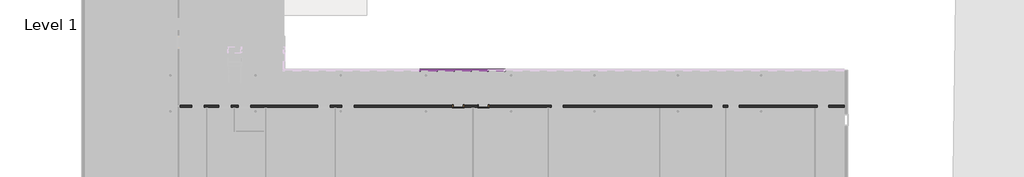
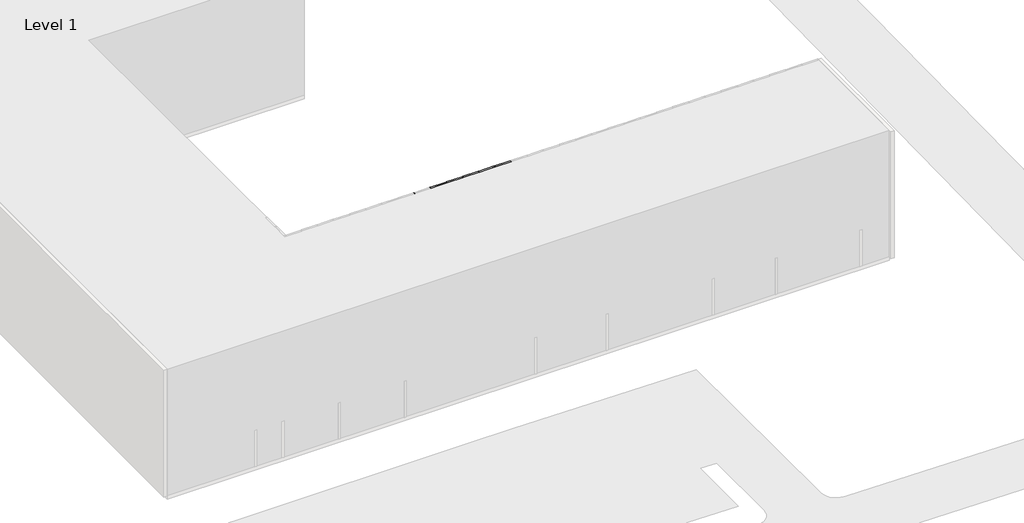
# One storey, part 5 of 27: 78 members, 32 plates, 2 doors, 1 wall.
"""IFC4 building model written with IfcOpenShell, lengths in millimetres."""

from ifc_helpers import new_model, si_unit, origin, place, context, project, spatial, faceted_brep, transform, mapped, element, save
from components import door_0915mm_x_2134mm_2aa27b83, door_0915mm_x_2134mm_3fa07aa3, rectangular_mullion_50mm_x_150mm_5f185edf, rectangular_mullion_50mm_x_150mm_e13fe9f0, rectangular_mullion_50mm_x_150mm_bbc1c4ea, rectangular_mullion_50mm_x_150mm_36202a7c, rectangular_mullion_50mm_x_150mm_84717ec5, system_panel_glazed_65478968, system_panel_glazed_4c130a31, system_panel_solid_368a6b70, system_panel_solid_ece33ae8

model = new_model("IFC4")

# Units and contexts
model_context = context("Model", 3, world=origin())
ifc_project = project(units=[si_unit("LENGTHUNIT", "METRE", prefix="MILLI")], contexts=[model_context])

# Site, building, storey
site = spatial("IfcSite", under=ifc_project)
building = spatial("IfcBuilding", under=site)
storey = spatial("IfcBuildingStorey", under=building, Name="Level 1", Elevation=0.0)

# Doors
placement = place(None, origin())
door_0915mm_x_2134mm_shape = door_0915mm_x_2134mm_2aa27b83(model_context)
element("IfcDoor", 1, ObjectType="m-doors-hm-f1-a : 0915mm x 2134mm", at=placement, inside=storey, context=model_context, shape_type="MappedRepresentation", body=[
    mapped(door_0915mm_x_2134mm_shape, transform((24961.1968037, -15479.7006057, 0.0), x_axis=(-1.0, 0.0, 0.0), y_axis=(0.0, -1.0, 0.0), z_axis=(0.0, 0.0, 1.0))),
])
door_0915mm_x_2134mm_2_shape = door_0915mm_x_2134mm_3fa07aa3(model_context)
element("IfcDoor", 2, ObjectType="m-doors-hm-f1-a : 0915mm x 2134mm", at=placement, inside=storey, context=model_context, shape_type="MappedRepresentation", body=[
    mapped(door_0915mm_x_2134mm_2_shape, transform((22761.1968037, -15479.7006057, 0.0), x_axis=(1.0, 0.0, 0.0), y_axis=(0.0, 1.0, 0.0), z_axis=(0.0, 0.0, 1.0))),
])

# Members
rectangular_mullion_50mm_x_150mm_shape = rectangular_mullion_50mm_x_150mm_5f185edf(model_context)
element("IfcMember", 3, ObjectType="Rectangular Mullion : 50mm x 150mm", at=placement, inside=storey, context=model_context, shape_type="MappedRepresentation", body=[
    mapped(rectangular_mullion_50mm_x_150mm_shape, transform((26874.6529347, -12132.3615692, 12400.0), x_axis=(0.0, 0.0, 1.0), y_axis=(0.0, 1.0, 0.0), z_axis=(-1.0, 0.0, 0.0))),
])
element("IfcMember", 4, ObjectType="Rectangular Mullion : 50mm x 150mm", at=placement, inside=storey, context=model_context, shape_type="MappedRepresentation", body=[
    mapped(rectangular_mullion_50mm_x_150mm_shape, transform((25382.1797146, -12132.3615692, 12400.0), x_axis=(0.0, 0.0, 1.0), y_axis=(0.0, 1.0, 0.0), z_axis=(-1.0, 0.0, 0.0))),
])
element("IfcMember", 5, ObjectType="Rectangular Mullion : 50mm x 150mm", at=placement, inside=storey, context=model_context, shape_type="MappedRepresentation", body=[
    mapped(rectangular_mullion_50mm_x_150mm_shape, transform((23889.7064944, -12132.3615692, 12400.0), x_axis=(0.0, 0.0, 1.0), y_axis=(0.0, 1.0, 0.0), z_axis=(-1.0, 0.0, 0.0))),
])
element("IfcMember", 6, ObjectType="Rectangular Mullion : 50mm x 150mm", at=placement, inside=storey, context=model_context, shape_type="MappedRepresentation", body=[
    mapped(rectangular_mullion_50mm_x_150mm_shape, transform((22397.2332743, -12132.3615692, 12400.0), x_axis=(0.0, 0.0, 1.0), y_axis=(0.0, 1.0, 0.0), z_axis=(-1.0, 0.0, 0.0))),
])
element("IfcMember", 7, ObjectType="Rectangular Mullion : 50mm x 150mm", at=placement, inside=storey, context=model_context, shape_type="MappedRepresentation", body=[
    mapped(rectangular_mullion_50mm_x_150mm_shape, transform((20904.7600541, -12132.3615692, 12400.0), x_axis=(0.0, 0.0, 1.0), y_axis=(0.0, 1.0, 0.0), z_axis=(-1.0, 0.0, 0.0))),
])
element("IfcMember", 8, ObjectType="Rectangular Mullion : 50mm x 150mm", at=placement, inside=storey, context=model_context, shape_type="MappedRepresentation", body=[
    mapped(rectangular_mullion_50mm_x_150mm_shape, transform((26824.6529347, -12132.3615692, 0.0), x_axis=(0.0, 0.0, -1.0), y_axis=(0.0, 1.0, 0.0), z_axis=(1.0, 0.0, 0.0))),
])
element("IfcMember", 9, ObjectType="Rectangular Mullion : 50mm x 150mm", at=placement, inside=storey, context=model_context, shape_type="MappedRepresentation", body=[
    mapped(rectangular_mullion_50mm_x_150mm_shape, transform((25332.1797146, -12132.3615692, 0.0), x_axis=(0.0, 0.0, -1.0), y_axis=(0.0, 1.0, 0.0), z_axis=(1.0, 0.0, 0.0))),
])
element("IfcMember", 10, ObjectType="Rectangular Mullion : 50mm x 150mm", at=placement, inside=storey, context=model_context, shape_type="MappedRepresentation", body=[
    mapped(rectangular_mullion_50mm_x_150mm_shape, transform((23839.7064944, -12132.3615692, 0.0), x_axis=(0.0, 0.0, -1.0), y_axis=(0.0, 1.0, 0.0), z_axis=(1.0, 0.0, 0.0))),
])
element("IfcMember", 11, ObjectType="Rectangular Mullion : 50mm x 150mm", at=placement, inside=storey, context=model_context, shape_type="MappedRepresentation", body=[
    mapped(rectangular_mullion_50mm_x_150mm_shape, transform((22347.2332743, -12132.3615692, 0.0), x_axis=(0.0, 0.0, -1.0), y_axis=(0.0, 1.0, 0.0), z_axis=(1.0, 0.0, 0.0))),
])
element("IfcMember", 12, ObjectType="Rectangular Mullion : 50mm x 150mm", at=placement, inside=storey, context=model_context, shape_type="MappedRepresentation", body=[
    mapped(rectangular_mullion_50mm_x_150mm_shape, transform((20854.7600541, -12132.3615692, 0.0), x_axis=(0.0, 0.0, -1.0), y_axis=(0.0, 1.0, 0.0), z_axis=(1.0, 0.0, 0.0))),
])
rectangular_mullion_50mm_x_150mm_2_shape = rectangular_mullion_50mm_x_150mm_e13fe9f0(model_context)
element("IfcMember", 13, ObjectType="Rectangular Mullion : 50mm x 150mm", at=placement, inside=storey, context=model_context, shape_type="MappedRepresentation", body=[
    mapped(rectangular_mullion_50mm_x_150mm_2_shape, transform((26874.6529347, -12132.3615692, 3800.0), x_axis=(0.0, 0.0, 1.0), y_axis=(0.0, 1.0, 0.0), z_axis=(-1.0, 0.0, 0.0))),
])
element("IfcMember", 14, ObjectType="Rectangular Mullion : 50mm x 150mm", at=placement, inside=storey, context=model_context, shape_type="MappedRepresentation", body=[
    mapped(rectangular_mullion_50mm_x_150mm_2_shape, transform((25382.1797146, -12132.3615692, 3800.0), x_axis=(0.0, 0.0, 1.0), y_axis=(0.0, 1.0, 0.0), z_axis=(-1.0, 0.0, 0.0))),
])
element("IfcMember", 15, ObjectType="Rectangular Mullion : 50mm x 150mm", at=placement, inside=storey, context=model_context, shape_type="MappedRepresentation", body=[
    mapped(rectangular_mullion_50mm_x_150mm_2_shape, transform((23889.7064944, -12132.3615692, 3800.0), x_axis=(0.0, 0.0, 1.0), y_axis=(0.0, 1.0, 0.0), z_axis=(-1.0, 0.0, 0.0))),
])
element("IfcMember", 16, ObjectType="Rectangular Mullion : 50mm x 150mm", at=placement, inside=storey, context=model_context, shape_type="MappedRepresentation", body=[
    mapped(rectangular_mullion_50mm_x_150mm_2_shape, transform((22397.2332743, -12132.3615692, 3800.0), x_axis=(0.0, 0.0, 1.0), y_axis=(0.0, 1.0, 0.0), z_axis=(-1.0, 0.0, 0.0))),
])
element("IfcMember", 17, ObjectType="Rectangular Mullion : 50mm x 150mm", at=placement, inside=storey, context=model_context, shape_type="MappedRepresentation", body=[
    mapped(rectangular_mullion_50mm_x_150mm_2_shape, transform((20904.7600541, -12132.3615692, 3800.0), x_axis=(0.0, 0.0, 1.0), y_axis=(0.0, 1.0, 0.0), z_axis=(-1.0, 0.0, 0.0))),
])
element("IfcMember", 18, ObjectType="Rectangular Mullion : 50mm x 150mm", at=placement, inside=storey, context=model_context, shape_type="MappedRepresentation", body=[
    mapped(rectangular_mullion_50mm_x_150mm_2_shape, transform((26874.6529347, -12132.3615692, 7600.0), x_axis=(0.0, 0.0, 1.0), y_axis=(0.0, 1.0, 0.0), z_axis=(-1.0, 0.0, 0.0))),
])
element("IfcMember", 19, ObjectType="Rectangular Mullion : 50mm x 150mm", at=placement, inside=storey, context=model_context, shape_type="MappedRepresentation", body=[
    mapped(rectangular_mullion_50mm_x_150mm_2_shape, transform((25382.1797146, -12132.3615692, 7600.0), x_axis=(0.0, 0.0, 1.0), y_axis=(0.0, 1.0, 0.0), z_axis=(-1.0, 0.0, 0.0))),
])
element("IfcMember", 20, ObjectType="Rectangular Mullion : 50mm x 150mm", at=placement, inside=storey, context=model_context, shape_type="MappedRepresentation", body=[
    mapped(rectangular_mullion_50mm_x_150mm_2_shape, transform((23889.7064944, -12132.3615692, 7600.0), x_axis=(0.0, 0.0, 1.0), y_axis=(0.0, 1.0, 0.0), z_axis=(-1.0, 0.0, 0.0))),
])
element("IfcMember", 21, ObjectType="Rectangular Mullion : 50mm x 150mm", at=placement, inside=storey, context=model_context, shape_type="MappedRepresentation", body=[
    mapped(rectangular_mullion_50mm_x_150mm_2_shape, transform((22397.2332743, -12132.3615692, 7600.0), x_axis=(0.0, 0.0, 1.0), y_axis=(0.0, 1.0, 0.0), z_axis=(-1.0, 0.0, 0.0))),
])
element("IfcMember", 22, ObjectType="Rectangular Mullion : 50mm x 150mm", at=placement, inside=storey, context=model_context, shape_type="MappedRepresentation", body=[
    mapped(rectangular_mullion_50mm_x_150mm_2_shape, transform((20904.7600541, -12132.3615692, 7600.0), x_axis=(0.0, 0.0, 1.0), y_axis=(0.0, 1.0, 0.0), z_axis=(-1.0, 0.0, 0.0))),
])
element("IfcMember", 23, ObjectType="Rectangular Mullion : 50mm x 150mm", at=placement, inside=storey, context=model_context, shape_type="MappedRepresentation", body=[
    mapped(rectangular_mullion_50mm_x_150mm_2_shape, transform((19412.2868339, -12132.3615692, 7600.0), x_axis=(0.0, 0.0, 1.0), y_axis=(0.0, 1.0, 0.0), z_axis=(-1.0, 0.0, 0.0))),
])
element("IfcMember", 24, ObjectType="Rectangular Mullion : 50mm x 150mm", at=placement, inside=storey, context=model_context, shape_type="MappedRepresentation", body=[
    mapped(rectangular_mullion_50mm_x_150mm_2_shape, transform((26874.6529347, -12132.3615692, 11400.0), x_axis=(0.0, 0.0, 1.0), y_axis=(0.0, 1.0, 0.0), z_axis=(-1.0, 0.0, 0.0))),
])
element("IfcMember", 25, ObjectType="Rectangular Mullion : 50mm x 150mm", at=placement, inside=storey, context=model_context, shape_type="MappedRepresentation", body=[
    mapped(rectangular_mullion_50mm_x_150mm_2_shape, transform((25382.1797146, -12132.3615692, 11400.0), x_axis=(0.0, 0.0, 1.0), y_axis=(0.0, 1.0, 0.0), z_axis=(-1.0, 0.0, 0.0))),
])
element("IfcMember", 26, ObjectType="Rectangular Mullion : 50mm x 150mm", at=placement, inside=storey, context=model_context, shape_type="MappedRepresentation", body=[
    mapped(rectangular_mullion_50mm_x_150mm_2_shape, transform((23889.7064944, -12132.3615692, 11400.0), x_axis=(0.0, 0.0, 1.0), y_axis=(0.0, 1.0, 0.0), z_axis=(-1.0, 0.0, 0.0))),
])
element("IfcMember", 27, ObjectType="Rectangular Mullion : 50mm x 150mm", at=placement, inside=storey, context=model_context, shape_type="MappedRepresentation", body=[
    mapped(rectangular_mullion_50mm_x_150mm_2_shape, transform((22397.2332743, -12132.3615692, 11400.0), x_axis=(0.0, 0.0, 1.0), y_axis=(0.0, 1.0, 0.0), z_axis=(-1.0, 0.0, 0.0))),
])
element("IfcMember", 28, ObjectType="Rectangular Mullion : 50mm x 150mm", at=placement, inside=storey, context=model_context, shape_type="MappedRepresentation", body=[
    mapped(rectangular_mullion_50mm_x_150mm_2_shape, transform((20904.7600541, -12132.3615692, 11400.0), x_axis=(0.0, 0.0, 1.0), y_axis=(0.0, 1.0, 0.0), z_axis=(-1.0, 0.0, 0.0))),
])
element("IfcMember", 29, ObjectType="Rectangular Mullion : 50mm x 150mm", at=placement, inside=storey, context=model_context, shape_type="MappedRepresentation", body=[
    mapped(rectangular_mullion_50mm_x_150mm_2_shape, transform((19412.2868339, -12132.3615692, 11400.0), x_axis=(0.0, 0.0, 1.0), y_axis=(0.0, 1.0, 0.0), z_axis=(-1.0, 0.0, 0.0))),
])
element("IfcMember", 30, ObjectType="Rectangular Mullion : 50mm x 150mm", at=placement, inside=storey, context=model_context, shape_type="MappedRepresentation", body=[
    mapped(rectangular_mullion_50mm_x_150mm_2_shape, transform((25382.1797146, -12132.3615692, 2440.0), x_axis=(0.0, 0.0, 1.0), y_axis=(0.0, 1.0, 0.0), z_axis=(-1.0, 0.0, 0.0))),
])
element("IfcMember", 31, ObjectType="Rectangular Mullion : 50mm x 150mm", at=placement, inside=storey, context=model_context, shape_type="MappedRepresentation", body=[
    mapped(rectangular_mullion_50mm_x_150mm_2_shape, transform((23889.7064944, -12132.3615692, 2440.0), x_axis=(0.0, 0.0, 1.0), y_axis=(0.0, 1.0, 0.0), z_axis=(-1.0, 0.0, 0.0))),
])
element("IfcMember", 32, ObjectType="Rectangular Mullion : 50mm x 150mm", at=placement, inside=storey, context=model_context, shape_type="MappedRepresentation", body=[
    mapped(rectangular_mullion_50mm_x_150mm_2_shape, transform((22397.2332743, -12132.3615692, 2440.0), x_axis=(0.0, 0.0, 1.0), y_axis=(0.0, 1.0, 0.0), z_axis=(-1.0, 0.0, 0.0))),
])
element("IfcMember", 33, ObjectType="Rectangular Mullion : 50mm x 150mm", at=placement, inside=storey, context=model_context, shape_type="MappedRepresentation", body=[
    mapped(rectangular_mullion_50mm_x_150mm_2_shape, transform((20904.7600541, -12132.3615692, 2440.0), x_axis=(0.0, 0.0, 1.0), y_axis=(0.0, 1.0, 0.0), z_axis=(-1.0, 0.0, 0.0))),
])
element("IfcMember", 34, ObjectType="Rectangular Mullion : 50mm x 150mm", at=placement, inside=storey, context=model_context, shape_type="MappedRepresentation", body=[
    mapped(rectangular_mullion_50mm_x_150mm_2_shape, transform((19412.2868339, -12132.3615692, 2440.0), x_axis=(0.0, 0.0, 1.0), y_axis=(0.0, 1.0, 0.0), z_axis=(-1.0, 0.0, 0.0))),
])
element("IfcMember", 35, ObjectType="Rectangular Mullion : 50mm x 150mm", at=placement, inside=storey, context=model_context, shape_type="MappedRepresentation", body=[
    mapped(rectangular_mullion_50mm_x_150mm_2_shape, transform((25382.1797146, -12132.3615692, 6240.0), x_axis=(0.0, 0.0, 1.0), y_axis=(0.0, 1.0, 0.0), z_axis=(-1.0, 0.0, 0.0))),
])
element("IfcMember", 36, ObjectType="Rectangular Mullion : 50mm x 150mm", at=placement, inside=storey, context=model_context, shape_type="MappedRepresentation", body=[
    mapped(rectangular_mullion_50mm_x_150mm_2_shape, transform((23889.7064944, -12132.3615692, 6240.0), x_axis=(0.0, 0.0, 1.0), y_axis=(0.0, 1.0, 0.0), z_axis=(-1.0, 0.0, 0.0))),
])
element("IfcMember", 37, ObjectType="Rectangular Mullion : 50mm x 150mm", at=placement, inside=storey, context=model_context, shape_type="MappedRepresentation", body=[
    mapped(rectangular_mullion_50mm_x_150mm_2_shape, transform((22397.2332743, -12132.3615692, 6240.0), x_axis=(0.0, 0.0, 1.0), y_axis=(0.0, 1.0, 0.0), z_axis=(-1.0, 0.0, 0.0))),
])
element("IfcMember", 38, ObjectType="Rectangular Mullion : 50mm x 150mm", at=placement, inside=storey, context=model_context, shape_type="MappedRepresentation", body=[
    mapped(rectangular_mullion_50mm_x_150mm_2_shape, transform((20904.7600541, -12132.3615692, 6240.0), x_axis=(0.0, 0.0, 1.0), y_axis=(0.0, 1.0, 0.0), z_axis=(-1.0, 0.0, 0.0))),
])
element("IfcMember", 39, ObjectType="Rectangular Mullion : 50mm x 150mm", at=placement, inside=storey, context=model_context, shape_type="MappedRepresentation", body=[
    mapped(rectangular_mullion_50mm_x_150mm_2_shape, transform((19412.2868339, -12132.3615692, 6240.0), x_axis=(0.0, 0.0, 1.0), y_axis=(0.0, 1.0, 0.0), z_axis=(-1.0, 0.0, 0.0))),
])
element("IfcMember", 40, ObjectType="Rectangular Mullion : 50mm x 150mm", at=placement, inside=storey, context=model_context, shape_type="MappedRepresentation", body=[
    mapped(rectangular_mullion_50mm_x_150mm_2_shape, transform((25382.1797146, -12132.3615692, 10040.0), x_axis=(0.0, 0.0, 1.0), y_axis=(0.0, 1.0, 0.0), z_axis=(-1.0, 0.0, 0.0))),
])
element("IfcMember", 41, ObjectType="Rectangular Mullion : 50mm x 150mm", at=placement, inside=storey, context=model_context, shape_type="MappedRepresentation", body=[
    mapped(rectangular_mullion_50mm_x_150mm_2_shape, transform((23889.7064944, -12132.3615692, 10040.0), x_axis=(0.0, 0.0, 1.0), y_axis=(0.0, 1.0, 0.0), z_axis=(-1.0, 0.0, 0.0))),
])
element("IfcMember", 42, ObjectType="Rectangular Mullion : 50mm x 150mm", at=placement, inside=storey, context=model_context, shape_type="MappedRepresentation", body=[
    mapped(rectangular_mullion_50mm_x_150mm_2_shape, transform((22397.2332743, -12132.3615692, 10040.0), x_axis=(0.0, 0.0, 1.0), y_axis=(0.0, 1.0, 0.0), z_axis=(-1.0, 0.0, 0.0))),
])
element("IfcMember", 43, ObjectType="Rectangular Mullion : 50mm x 150mm", at=placement, inside=storey, context=model_context, shape_type="MappedRepresentation", body=[
    mapped(rectangular_mullion_50mm_x_150mm_2_shape, transform((20904.7600541, -12132.3615692, 10040.0), x_axis=(0.0, 0.0, 1.0), y_axis=(0.0, 1.0, 0.0), z_axis=(-1.0, 0.0, 0.0))),
])
element("IfcMember", 44, ObjectType="Rectangular Mullion : 50mm x 150mm", at=placement, inside=storey, context=model_context, shape_type="MappedRepresentation", body=[
    mapped(rectangular_mullion_50mm_x_150mm_2_shape, transform((19412.2868339, -12132.3615692, 10040.0), x_axis=(0.0, 0.0, 1.0), y_axis=(0.0, 1.0, 0.0), z_axis=(-1.0, 0.0, 0.0))),
])
rectangular_mullion_50mm_x_150mm_3_shape = rectangular_mullion_50mm_x_150mm_bbc1c4ea(model_context)
element("IfcMember", 45, ObjectType="Rectangular Mullion : 50mm x 150mm", at=placement, inside=storey, context=model_context, shape_type="MappedRepresentation", body=[
    mapped(rectangular_mullion_50mm_x_150mm_3_shape, transform((25357.1797146, -12132.3615692, 11400.0), x_axis=(-1.0, 0.0, 0.0), y_axis=(0.0, 1.0, 0.0), z_axis=(0.0, 0.0, -1.0))),
])
element("IfcMember", 46, ObjectType="Rectangular Mullion : 50mm x 150mm", at=placement, inside=storey, context=model_context, shape_type="MappedRepresentation", body=[
    mapped(rectangular_mullion_50mm_x_150mm_3_shape, transform((23864.7064944, -12132.3615692, 11400.0), x_axis=(-1.0, 0.0, 0.0), y_axis=(0.0, 1.0, 0.0), z_axis=(0.0, 0.0, -1.0))),
])
element("IfcMember", 47, ObjectType="Rectangular Mullion : 50mm x 150mm", at=placement, inside=storey, context=model_context, shape_type="MappedRepresentation", body=[
    mapped(rectangular_mullion_50mm_x_150mm_3_shape, transform((22372.2332743, -12132.3615692, 11400.0), x_axis=(-1.0, 0.0, 0.0), y_axis=(0.0, 1.0, 0.0), z_axis=(0.0, 0.0, -1.0))),
])
element("IfcMember", 48, ObjectType="Rectangular Mullion : 50mm x 150mm", at=placement, inside=storey, context=model_context, shape_type="MappedRepresentation", body=[
    mapped(rectangular_mullion_50mm_x_150mm_3_shape, transform((20879.7600541, -12132.3615692, 11400.0), x_axis=(-1.0, 0.0, 0.0), y_axis=(0.0, 1.0, 0.0), z_axis=(0.0, 0.0, -1.0))),
])
element("IfcMember", 49, ObjectType="Rectangular Mullion : 50mm x 150mm", at=placement, inside=storey, context=model_context, shape_type="MappedRepresentation", body=[
    mapped(rectangular_mullion_50mm_x_150mm_3_shape, transform((19387.2868339, -12132.3615692, 11400.0), x_axis=(-1.0, 0.0, 0.0), y_axis=(0.0, 1.0, 0.0), z_axis=(0.0, 0.0, -1.0))),
])
rectangular_mullion_50mm_x_150mm_4_shape = rectangular_mullion_50mm_x_150mm_36202a7c(model_context)
element("IfcMember", 50, ObjectType="Rectangular Mullion : 50mm x 150mm", at=placement, inside=storey, context=model_context, shape_type="MappedRepresentation", body=[
    mapped(rectangular_mullion_50mm_x_150mm_4_shape, transform((26849.6529347, -12132.3615692, 0.0), x_axis=(-1.0, 0.0, 0.0), y_axis=(0.0, 1.0, 0.0), z_axis=(0.0, 0.0, -1.0))),
])
element("IfcMember", 51, ObjectType="Rectangular Mullion : 50mm x 150mm", at=placement, inside=storey, context=model_context, shape_type="MappedRepresentation", body=[
    mapped(rectangular_mullion_50mm_x_150mm_4_shape, transform((25357.1797146, -12132.3615692, 0.0), x_axis=(-1.0, 0.0, 0.0), y_axis=(0.0, 1.0, 0.0), z_axis=(0.0, 0.0, -1.0))),
])
element("IfcMember", 52, ObjectType="Rectangular Mullion : 50mm x 150mm", at=placement, inside=storey, context=model_context, shape_type="MappedRepresentation", body=[
    mapped(rectangular_mullion_50mm_x_150mm_4_shape, transform((23864.7064944, -12132.3615692, 0.0), x_axis=(-1.0, 0.0, 0.0), y_axis=(0.0, 1.0, 0.0), z_axis=(0.0, 0.0, -1.0))),
])
element("IfcMember", 53, ObjectType="Rectangular Mullion : 50mm x 150mm", at=placement, inside=storey, context=model_context, shape_type="MappedRepresentation", body=[
    mapped(rectangular_mullion_50mm_x_150mm_4_shape, transform((22372.2332743, -12132.3615692, 0.0), x_axis=(-1.0, 0.0, 0.0), y_axis=(0.0, 1.0, 0.0), z_axis=(0.0, 0.0, -1.0))),
])
element("IfcMember", 54, ObjectType="Rectangular Mullion : 50mm x 150mm", at=placement, inside=storey, context=model_context, shape_type="MappedRepresentation", body=[
    mapped(rectangular_mullion_50mm_x_150mm_4_shape, transform((20879.7600541, -12132.3615692, 0.0), x_axis=(-1.0, 0.0, 0.0), y_axis=(0.0, 1.0, 0.0), z_axis=(0.0, 0.0, -1.0))),
])
element("IfcMember", 55, ObjectType="Rectangular Mullion : 50mm x 150mm", at=placement, inside=storey, context=model_context, shape_type="MappedRepresentation", body=[
    mapped(rectangular_mullion_50mm_x_150mm_4_shape, transform((19387.2868339, -12132.3615692, 0.0), x_axis=(-1.0, 0.0, 0.0), y_axis=(0.0, 1.0, 0.0), z_axis=(0.0, 0.0, -1.0))),
])
rectangular_mullion_50mm_x_150mm_5_shape = rectangular_mullion_50mm_x_150mm_84717ec5(model_context)
element("IfcMember", 56, ObjectType="Rectangular Mullion : 50mm x 150mm", at=placement, inside=storey, context=model_context, shape_type="MappedRepresentation", body=[
    mapped(rectangular_mullion_50mm_x_150mm_5_shape, transform((25357.1797146, -12132.3615692, 2440.0), x_axis=(-1.0, 0.0, 0.0), y_axis=(0.0, 1.0, 0.0), z_axis=(0.0, 0.0, -1.0))),
])
element("IfcMember", 57, ObjectType="Rectangular Mullion : 50mm x 150mm", at=placement, inside=storey, context=model_context, shape_type="MappedRepresentation", body=[
    mapped(rectangular_mullion_50mm_x_150mm_5_shape, transform((23864.7064944, -12132.3615692, 2440.0), x_axis=(-1.0, 0.0, 0.0), y_axis=(0.0, 1.0, 0.0), z_axis=(0.0, 0.0, -1.0))),
])
element("IfcMember", 58, ObjectType="Rectangular Mullion : 50mm x 150mm", at=placement, inside=storey, context=model_context, shape_type="MappedRepresentation", body=[
    mapped(rectangular_mullion_50mm_x_150mm_5_shape, transform((22372.2332743, -12132.3615692, 2440.0), x_axis=(-1.0, 0.0, 0.0), y_axis=(0.0, 1.0, 0.0), z_axis=(0.0, 0.0, -1.0))),
])
element("IfcMember", 59, ObjectType="Rectangular Mullion : 50mm x 150mm", at=placement, inside=storey, context=model_context, shape_type="MappedRepresentation", body=[
    mapped(rectangular_mullion_50mm_x_150mm_5_shape, transform((20879.7600541, -12132.3615692, 2440.0), x_axis=(-1.0, 0.0, 0.0), y_axis=(0.0, 1.0, 0.0), z_axis=(0.0, 0.0, -1.0))),
])
element("IfcMember", 60, ObjectType="Rectangular Mullion : 50mm x 150mm", at=placement, inside=storey, context=model_context, shape_type="MappedRepresentation", body=[
    mapped(rectangular_mullion_50mm_x_150mm_5_shape, transform((19387.2868339, -12132.3615692, 2440.0), x_axis=(-1.0, 0.0, 0.0), y_axis=(0.0, 1.0, 0.0), z_axis=(0.0, 0.0, -1.0))),
])
element("IfcMember", 61, ObjectType="Rectangular Mullion : 50mm x 150mm", at=placement, inside=storey, context=model_context, shape_type="MappedRepresentation", body=[
    mapped(rectangular_mullion_50mm_x_150mm_5_shape, transform((25357.1797146, -12132.3615692, 6240.0), x_axis=(-1.0, 0.0, 0.0), y_axis=(0.0, 1.0, 0.0), z_axis=(0.0, 0.0, -1.0))),
])
element("IfcMember", 62, ObjectType="Rectangular Mullion : 50mm x 150mm", at=placement, inside=storey, context=model_context, shape_type="MappedRepresentation", body=[
    mapped(rectangular_mullion_50mm_x_150mm_5_shape, transform((23864.7064944, -12132.3615692, 6240.0), x_axis=(-1.0, 0.0, 0.0), y_axis=(0.0, 1.0, 0.0), z_axis=(0.0, 0.0, -1.0))),
])
element("IfcMember", 63, ObjectType="Rectangular Mullion : 50mm x 150mm", at=placement, inside=storey, context=model_context, shape_type="MappedRepresentation", body=[
    mapped(rectangular_mullion_50mm_x_150mm_5_shape, transform((22372.2332743, -12132.3615692, 6240.0), x_axis=(-1.0, 0.0, 0.0), y_axis=(0.0, 1.0, 0.0), z_axis=(0.0, 0.0, -1.0))),
])
element("IfcMember", 64, ObjectType="Rectangular Mullion : 50mm x 150mm", at=placement, inside=storey, context=model_context, shape_type="MappedRepresentation", body=[
    mapped(rectangular_mullion_50mm_x_150mm_5_shape, transform((20879.7600541, -12132.3615692, 6240.0), x_axis=(-1.0, 0.0, 0.0), y_axis=(0.0, 1.0, 0.0), z_axis=(0.0, 0.0, -1.0))),
])
element("IfcMember", 65, ObjectType="Rectangular Mullion : 50mm x 150mm", at=placement, inside=storey, context=model_context, shape_type="MappedRepresentation", body=[
    mapped(rectangular_mullion_50mm_x_150mm_5_shape, transform((19387.2868339, -12132.3615692, 6240.0), x_axis=(-1.0, 0.0, 0.0), y_axis=(0.0, 1.0, 0.0), z_axis=(0.0, 0.0, -1.0))),
])
element("IfcMember", 66, ObjectType="Rectangular Mullion : 50mm x 150mm", at=placement, inside=storey, context=model_context, shape_type="MappedRepresentation", body=[
    mapped(rectangular_mullion_50mm_x_150mm_5_shape, transform((25357.1797146, -12132.3615692, 10040.0), x_axis=(-1.0, 0.0, 0.0), y_axis=(0.0, 1.0, 0.0), z_axis=(0.0, 0.0, -1.0))),
])
element("IfcMember", 67, ObjectType="Rectangular Mullion : 50mm x 150mm", at=placement, inside=storey, context=model_context, shape_type="MappedRepresentation", body=[
    mapped(rectangular_mullion_50mm_x_150mm_5_shape, transform((23864.7064944, -12132.3615692, 10040.0), x_axis=(-1.0, 0.0, 0.0), y_axis=(0.0, 1.0, 0.0), z_axis=(0.0, 0.0, -1.0))),
])
element("IfcMember", 68, ObjectType="Rectangular Mullion : 50mm x 150mm", at=placement, inside=storey, context=model_context, shape_type="MappedRepresentation", body=[
    mapped(rectangular_mullion_50mm_x_150mm_5_shape, transform((22372.2332743, -12132.3615692, 10040.0), x_axis=(-1.0, 0.0, 0.0), y_axis=(0.0, 1.0, 0.0), z_axis=(0.0, 0.0, -1.0))),
])
element("IfcMember", 69, ObjectType="Rectangular Mullion : 50mm x 150mm", at=placement, inside=storey, context=model_context, shape_type="MappedRepresentation", body=[
    mapped(rectangular_mullion_50mm_x_150mm_5_shape, transform((20879.7600541, -12132.3615692, 10040.0), x_axis=(-1.0, 0.0, 0.0), y_axis=(0.0, 1.0, 0.0), z_axis=(0.0, 0.0, -1.0))),
])
element("IfcMember", 70, ObjectType="Rectangular Mullion : 50mm x 150mm", at=placement, inside=storey, context=model_context, shape_type="MappedRepresentation", body=[
    mapped(rectangular_mullion_50mm_x_150mm_5_shape, transform((19387.2868339, -12132.3615692, 10040.0), x_axis=(-1.0, 0.0, 0.0), y_axis=(0.0, 1.0, 0.0), z_axis=(0.0, 0.0, -1.0))),
])
element("IfcMember", 71, ObjectType="Rectangular Mullion : 50mm x 150mm", at=placement, inside=storey, context=model_context, shape_type="MappedRepresentation", body=[
    mapped(rectangular_mullion_50mm_x_150mm_4_shape, transform((25357.1797146, -12132.3615692, 3800.0), x_axis=(-1.0, 0.0, 0.0), y_axis=(0.0, 1.0, 0.0), z_axis=(0.0, 0.0, -1.0))),
])
element("IfcMember", 72, ObjectType="Rectangular Mullion : 50mm x 150mm", at=placement, inside=storey, context=model_context, shape_type="MappedRepresentation", body=[
    mapped(rectangular_mullion_50mm_x_150mm_4_shape, transform((23864.7064944, -12132.3615692, 3800.0), x_axis=(-1.0, 0.0, 0.0), y_axis=(0.0, 1.0, 0.0), z_axis=(0.0, 0.0, -1.0))),
])
element("IfcMember", 73, ObjectType="Rectangular Mullion : 50mm x 150mm", at=placement, inside=storey, context=model_context, shape_type="MappedRepresentation", body=[
    mapped(rectangular_mullion_50mm_x_150mm_4_shape, transform((22372.2332743, -12132.3615692, 3800.0), x_axis=(-1.0, 0.0, 0.0), y_axis=(0.0, 1.0, 0.0), z_axis=(0.0, 0.0, -1.0))),
])
element("IfcMember", 74, ObjectType="Rectangular Mullion : 50mm x 150mm", at=placement, inside=storey, context=model_context, shape_type="MappedRepresentation", body=[
    mapped(rectangular_mullion_50mm_x_150mm_4_shape, transform((20879.7600541, -12132.3615692, 3800.0), x_axis=(-1.0, 0.0, 0.0), y_axis=(0.0, 1.0, 0.0), z_axis=(0.0, 0.0, -1.0))),
])
element("IfcMember", 75, ObjectType="Rectangular Mullion : 50mm x 150mm", at=placement, inside=storey, context=model_context, shape_type="MappedRepresentation", body=[
    mapped(rectangular_mullion_50mm_x_150mm_4_shape, transform((19387.2868339, -12132.3615692, 3800.0), x_axis=(-1.0, 0.0, 0.0), y_axis=(0.0, 1.0, 0.0), z_axis=(0.0, 0.0, -1.0))),
])
element("IfcMember", 76, ObjectType="Rectangular Mullion : 50mm x 150mm", at=placement, inside=storey, context=model_context, shape_type="MappedRepresentation", body=[
    mapped(rectangular_mullion_50mm_x_150mm_4_shape, transform((25357.1797146, -12132.3615692, 7600.0), x_axis=(-1.0, 0.0, 0.0), y_axis=(0.0, 1.0, 0.0), z_axis=(0.0, 0.0, -1.0))),
])
element("IfcMember", 77, ObjectType="Rectangular Mullion : 50mm x 150mm", at=placement, inside=storey, context=model_context, shape_type="MappedRepresentation", body=[
    mapped(rectangular_mullion_50mm_x_150mm_4_shape, transform((23864.7064944, -12132.3615692, 7600.0), x_axis=(-1.0, 0.0, 0.0), y_axis=(0.0, 1.0, 0.0), z_axis=(0.0, 0.0, -1.0))),
])
element("IfcMember", 78, ObjectType="Rectangular Mullion : 50mm x 150mm", at=placement, inside=storey, context=model_context, shape_type="MappedRepresentation", body=[
    mapped(rectangular_mullion_50mm_x_150mm_4_shape, transform((22372.2332743, -12132.3615692, 7600.0), x_axis=(-1.0, 0.0, 0.0), y_axis=(0.0, 1.0, 0.0), z_axis=(0.0, 0.0, -1.0))),
])
element("IfcMember", 79, ObjectType="Rectangular Mullion : 50mm x 150mm", at=placement, inside=storey, context=model_context, shape_type="MappedRepresentation", body=[
    mapped(rectangular_mullion_50mm_x_150mm_4_shape, transform((20879.7600541, -12132.3615692, 7600.0), x_axis=(-1.0, 0.0, 0.0), y_axis=(0.0, 1.0, 0.0), z_axis=(0.0, 0.0, -1.0))),
])
element("IfcMember", 80, ObjectType="Rectangular Mullion : 50mm x 150mm", at=placement, inside=storey, context=model_context, shape_type="MappedRepresentation", body=[
    mapped(rectangular_mullion_50mm_x_150mm_4_shape, transform((19387.2868339, -12132.3615692, 7600.0), x_axis=(-1.0, 0.0, 0.0), y_axis=(0.0, 1.0, 0.0), z_axis=(0.0, 0.0, -1.0))),
])

# Plates
system_panel_glazed_shape = system_panel_glazed_65478968(model_context)
element("IfcPlate", 81, ObjectType="System Panel : Glazed", at=placement, inside=storey, context=model_context, shape_type="MappedRepresentation", body=[
    mapped(system_panel_glazed_shape, transform((26103.4163247, -12132.3615692, 50.0), x_axis=(-1.0, 0.0, 0.0), y_axis=(0.0, -1.0, 0.0), z_axis=(0.0, 0.0, 1.0))),
])
element("IfcPlate", 82, ObjectType="System Panel : Glazed", at=placement, inside=storey, context=model_context, shape_type="MappedRepresentation", body=[
    mapped(system_panel_glazed_shape, transform((24610.9431045, -12132.3615692, 50.0), x_axis=(-1.0, 0.0, 0.0), y_axis=(0.0, -1.0, 0.0), z_axis=(0.0, 0.0, 1.0))),
])
element("IfcPlate", 83, ObjectType="System Panel : Glazed", at=placement, inside=storey, context=model_context, shape_type="MappedRepresentation", body=[
    mapped(system_panel_glazed_shape, transform((23118.4698843, -12132.3615692, 50.0), x_axis=(-1.0, 0.0, 0.0), y_axis=(0.0, -1.0, 0.0), z_axis=(0.0, 0.0, 1.0))),
])
element("IfcPlate", 84, ObjectType="System Panel : Glazed", at=placement, inside=storey, context=model_context, shape_type="MappedRepresentation", body=[
    mapped(system_panel_glazed_shape, transform((21625.9966642, -12132.3615692, 50.0), x_axis=(-1.0, 0.0, 0.0), y_axis=(0.0, -1.0, 0.0), z_axis=(0.0, 0.0, 1.0))),
])
element("IfcPlate", 85, ObjectType="System Panel : Glazed", at=placement, inside=storey, context=model_context, shape_type="MappedRepresentation", body=[
    mapped(system_panel_glazed_shape, transform((20133.523444, -12132.3615692, 50.0), x_axis=(-1.0, 0.0, 0.0), y_axis=(0.0, -1.0, 0.0), z_axis=(0.0, 0.0, 1.0))),
])
system_panel_glazed_2_shape = system_panel_glazed_4c130a31(model_context)
element("IfcPlate", 86, ObjectType="System Panel : Glazed", at=placement, inside=storey, context=model_context, shape_type="MappedRepresentation", body=[
    mapped(system_panel_glazed_2_shape, transform((26103.4163247, -12132.3615692, 3825.0), x_axis=(-1.0, 0.0, 0.0), y_axis=(0.0, -1.0, 0.0), z_axis=(0.0, 0.0, 1.0))),
])
element("IfcPlate", 87, ObjectType="System Panel : Glazed", at=placement, inside=storey, context=model_context, shape_type="MappedRepresentation", body=[
    mapped(system_panel_glazed_2_shape, transform((24610.9431045, -12132.3615692, 3825.0), x_axis=(-1.0, 0.0, 0.0), y_axis=(0.0, -1.0, 0.0), z_axis=(0.0, 0.0, 1.0))),
])
element("IfcPlate", 88, ObjectType="System Panel : Glazed", at=placement, inside=storey, context=model_context, shape_type="MappedRepresentation", body=[
    mapped(system_panel_glazed_2_shape, transform((23118.4698843, -12132.3615692, 3825.0), x_axis=(-1.0, 0.0, 0.0), y_axis=(0.0, -1.0, 0.0), z_axis=(0.0, 0.0, 1.0))),
])
element("IfcPlate", 89, ObjectType="System Panel : Glazed", at=placement, inside=storey, context=model_context, shape_type="MappedRepresentation", body=[
    mapped(system_panel_glazed_2_shape, transform((21625.9966642, -12132.3615692, 3825.0), x_axis=(-1.0, 0.0, 0.0), y_axis=(0.0, -1.0, 0.0), z_axis=(0.0, 0.0, 1.0))),
])
element("IfcPlate", 90, ObjectType="System Panel : Glazed", at=placement, inside=storey, context=model_context, shape_type="MappedRepresentation", body=[
    mapped(system_panel_glazed_2_shape, transform((20133.523444, -12132.3615692, 3825.0), x_axis=(-1.0, 0.0, 0.0), y_axis=(0.0, -1.0, 0.0), z_axis=(0.0, 0.0, 1.0))),
])
element("IfcPlate", 91, ObjectType="System Panel : Glazed", at=placement, inside=storey, context=model_context, shape_type="MappedRepresentation", body=[
    mapped(system_panel_glazed_2_shape, transform((26103.4163247, -12132.3615692, 7625.0), x_axis=(-1.0, 0.0, 0.0), y_axis=(0.0, -1.0, 0.0), z_axis=(0.0, 0.0, 1.0))),
])
element("IfcPlate", 92, ObjectType="System Panel : Glazed", at=placement, inside=storey, context=model_context, shape_type="MappedRepresentation", body=[
    mapped(system_panel_glazed_2_shape, transform((24610.9431045, -12132.3615692, 7625.0), x_axis=(-1.0, 0.0, 0.0), y_axis=(0.0, -1.0, 0.0), z_axis=(0.0, 0.0, 1.0))),
])
element("IfcPlate", 93, ObjectType="System Panel : Glazed", at=placement, inside=storey, context=model_context, shape_type="MappedRepresentation", body=[
    mapped(system_panel_glazed_2_shape, transform((23118.4698843, -12132.3615692, 7625.0), x_axis=(-1.0, 0.0, 0.0), y_axis=(0.0, -1.0, 0.0), z_axis=(0.0, 0.0, 1.0))),
])
element("IfcPlate", 94, ObjectType="System Panel : Glazed", at=placement, inside=storey, context=model_context, shape_type="MappedRepresentation", body=[
    mapped(system_panel_glazed_2_shape, transform((21625.9966642, -12132.3615692, 7625.0), x_axis=(-1.0, 0.0, 0.0), y_axis=(0.0, -1.0, 0.0), z_axis=(0.0, 0.0, 1.0))),
])
element("IfcPlate", 95, ObjectType="System Panel : Glazed", at=placement, inside=storey, context=model_context, shape_type="MappedRepresentation", body=[
    mapped(system_panel_glazed_2_shape, transform((20133.523444, -12132.3615692, 7625.0), x_axis=(-1.0, 0.0, 0.0), y_axis=(0.0, -1.0, 0.0), z_axis=(0.0, 0.0, 1.0))),
])
system_panel_solid_shape = system_panel_solid_368a6b70(model_context)
element("IfcPlate", 96, ObjectType="System Panel : Solid", at=placement, inside=storey, context=model_context, shape_type="MappedRepresentation", body=[
    mapped(system_panel_solid_shape, transform((26103.4163247, -12132.3615692, 11425.0), x_axis=(-1.0, 0.0, 0.0), y_axis=(0.0, -1.0, 0.0), z_axis=(0.0, 0.0, 1.0))),
])
element("IfcPlate", 97, ObjectType="System Panel : Solid", at=placement, inside=storey, context=model_context, shape_type="MappedRepresentation", body=[
    mapped(system_panel_solid_shape, transform((24610.9431045, -12132.3615692, 11425.0), x_axis=(-1.0, 0.0, 0.0), y_axis=(0.0, -1.0, 0.0), z_axis=(0.0, 0.0, 1.0))),
])
element("IfcPlate", 98, ObjectType="System Panel : Solid", at=placement, inside=storey, context=model_context, shape_type="MappedRepresentation", body=[
    mapped(system_panel_solid_shape, transform((23118.4698843, -12132.3615692, 11425.0), x_axis=(-1.0, 0.0, 0.0), y_axis=(0.0, -1.0, 0.0), z_axis=(0.0, 0.0, 1.0))),
])
element("IfcPlate", 99, ObjectType="System Panel : Solid", at=placement, inside=storey, context=model_context, shape_type="MappedRepresentation", body=[
    mapped(system_panel_solid_shape, transform((21625.9966642, -12132.3615692, 11425.0), x_axis=(-1.0, 0.0, 0.0), y_axis=(0.0, -1.0, 0.0), z_axis=(0.0, 0.0, 1.0))),
])
element("IfcPlate", 100, ObjectType="System Panel : Solid", at=placement, inside=storey, context=model_context, shape_type="MappedRepresentation", body=[
    mapped(system_panel_solid_shape, transform((20133.523444, -12132.3615692, 11425.0), x_axis=(-1.0, 0.0, 0.0), y_axis=(0.0, -1.0, 0.0), z_axis=(0.0, 0.0, 1.0))),
])
system_panel_solid_2_shape = system_panel_solid_ece33ae8(model_context)
element("IfcPlate", 101, ObjectType="System Panel : Solid", at=placement, inside=storey, context=model_context, shape_type="MappedRepresentation", body=[
    mapped(system_panel_solid_2_shape, transform((24610.9431045, -12132.3615692, 2465.0), x_axis=(-1.0, 0.0, 0.0), y_axis=(0.0, -1.0, 0.0), z_axis=(0.0, 0.0, 1.0))),
])
element("IfcPlate", 102, ObjectType="System Panel : Solid", at=placement, inside=storey, context=model_context, shape_type="MappedRepresentation", body=[
    mapped(system_panel_solid_2_shape, transform((23118.4698843, -12132.3615692, 2465.0), x_axis=(-1.0, 0.0, 0.0), y_axis=(0.0, -1.0, 0.0), z_axis=(0.0, 0.0, 1.0))),
])
element("IfcPlate", 103, ObjectType="System Panel : Solid", at=placement, inside=storey, context=model_context, shape_type="MappedRepresentation", body=[
    mapped(system_panel_solid_2_shape, transform((21625.9966642, -12132.3615692, 2465.0), x_axis=(-1.0, 0.0, 0.0), y_axis=(0.0, -1.0, 0.0), z_axis=(0.0, 0.0, 1.0))),
])
element("IfcPlate", 104, ObjectType="System Panel : Solid", at=placement, inside=storey, context=model_context, shape_type="MappedRepresentation", body=[
    mapped(system_panel_solid_2_shape, transform((20133.523444, -12132.3615692, 2465.0), x_axis=(-1.0, 0.0, 0.0), y_axis=(0.0, -1.0, 0.0), z_axis=(0.0, 0.0, 1.0))),
])
element("IfcPlate", 105, ObjectType="System Panel : Solid", at=placement, inside=storey, context=model_context, shape_type="MappedRepresentation", body=[
    mapped(system_panel_solid_2_shape, transform((24610.9431045, -12132.3615692, 6265.0), x_axis=(-1.0, 0.0, 0.0), y_axis=(0.0, -1.0, 0.0), z_axis=(0.0, 0.0, 1.0))),
])
element("IfcPlate", 106, ObjectType="System Panel : Solid", at=placement, inside=storey, context=model_context, shape_type="MappedRepresentation", body=[
    mapped(system_panel_solid_2_shape, transform((23118.4698843, -12132.3615692, 6265.0), x_axis=(-1.0, 0.0, 0.0), y_axis=(0.0, -1.0, 0.0), z_axis=(0.0, 0.0, 1.0))),
])
element("IfcPlate", 107, ObjectType="System Panel : Solid", at=placement, inside=storey, context=model_context, shape_type="MappedRepresentation", body=[
    mapped(system_panel_solid_2_shape, transform((21625.9966642, -12132.3615692, 6265.0), x_axis=(-1.0, 0.0, 0.0), y_axis=(0.0, -1.0, 0.0), z_axis=(0.0, 0.0, 1.0))),
])
element("IfcPlate", 108, ObjectType="System Panel : Solid", at=placement, inside=storey, context=model_context, shape_type="MappedRepresentation", body=[
    mapped(system_panel_solid_2_shape, transform((20133.523444, -12132.3615692, 6265.0), x_axis=(-1.0, 0.0, 0.0), y_axis=(0.0, -1.0, 0.0), z_axis=(0.0, 0.0, 1.0))),
])
element("IfcPlate", 109, ObjectType="System Panel : Solid", at=placement, inside=storey, context=model_context, shape_type="MappedRepresentation", body=[
    mapped(system_panel_solid_2_shape, transform((24610.9431045, -12132.3615692, 10065.0), x_axis=(-1.0, 0.0, 0.0), y_axis=(0.0, -1.0, 0.0), z_axis=(0.0, 0.0, 1.0))),
])
element("IfcPlate", 110, ObjectType="System Panel : Solid", at=placement, inside=storey, context=model_context, shape_type="MappedRepresentation", body=[
    mapped(system_panel_solid_2_shape, transform((23118.4698843, -12132.3615692, 10065.0), x_axis=(-1.0, 0.0, 0.0), y_axis=(0.0, -1.0, 0.0), z_axis=(0.0, 0.0, 1.0))),
])
element("IfcPlate", 111, ObjectType="System Panel : Solid", at=placement, inside=storey, context=model_context, shape_type="MappedRepresentation", body=[
    mapped(system_panel_solid_2_shape, transform((21625.9966642, -12132.3615692, 10065.0), x_axis=(-1.0, 0.0, 0.0), y_axis=(0.0, -1.0, 0.0), z_axis=(0.0, 0.0, 1.0))),
])
element("IfcPlate", 112, ObjectType="System Panel : Solid", at=placement, inside=storey, context=model_context, shape_type="MappedRepresentation", body=[
    mapped(system_panel_solid_2_shape, transform((20133.523444, -12132.3615692, 10065.0), x_axis=(-1.0, 0.0, 0.0), y_axis=(0.0, -1.0, 0.0), z_axis=(0.0, 0.0, 1.0))),
])

# Wall
element("IfcWall", 113, ObjectType="P6 184mm - 1HR - ULC #W453", at=placement, inside=storey, context=model_context, shape_type="Brep", body=[
    faceted_brep([(56699.1173382, -15396.7006057, 3550.0), (54199.1173382, -15396.7006057, 3550.0), (54009.1173382, -15396.7006057, 3550.0), (46353.1968037, -15396.7006057, 3550.0), (46169.1968037, -15396.7006057, 3550.0), (40553.1968037, -15396.7006057, 3550.0), (40369.1968037, -15396.7006057, 3550.0), (30753.1968037, -15396.7006057, 3550.0), (30569.1968037, -15396.7006057, 3550.0), (24153.1968037, -15396.7006057, 3550.0), (23969.1968037, -15396.7006057, 3550.0), (12053.1968037, -15396.7006057, 3550.0), (11869.1968037, -15396.7006057, 3550.0), (5953.1968037, -15396.7006057, 3550.0), (5769.1968037, -15396.7006057, 3550.0), (3176.1613365, -15396.7006057, 3550.0), (2992.1613365, -15396.7006057, 3550.0), (771.1613365, -15396.7006057, 3550.0), (581.1613365, -15396.7006057, 3550.0), (-1728.8386635, -15396.7006057, 3550.0), (-1728.8386635, -15396.7006057, 0.0), (-631.3386635, -15396.7006057, 0.0), (-631.3386635, -15396.7006057, 2184.0), (383.6613365, -15396.7006057, 2184.0), (383.6613365, -15396.7006057, 0.0), (581.1613365, -15396.7006057, 0.0), (771.1613365, -15396.7006057, 0.0), (1776.6613365, -15396.7006057, 0.0), (1776.6613365, -15396.7006057, 2184.0), (2791.6613365, -15396.7006057, 2184.0), (2791.6613365, -15396.7006057, 0.0), (2992.1613365, -15396.7006057, 0.0), (3176.1613365, -15396.7006057, 0.0), (3476.6613365, -15396.7006057, 0.0), (3476.6613365, -15396.7006057, 2184.0), (4491.6613365, -15396.7006057, 2184.0), (4491.6613365, -15396.7006057, 0.0), (5769.1968037, -15396.7006057, 0.0), (5953.1968037, -15396.7006057, 0.0), (10453.6968037, -15396.7006057, 0.0), (10453.6968037, -15396.7006057, 2184.0), (11468.6968037, -15396.7006057, 2184.0), (11468.6968037, -15396.7006057, 0.0), (11869.1968037, -15396.7006057, 0.0), (12053.1968037, -15396.7006057, 0.0), (12553.6968037, -15396.7006057, 0.0), (12553.6968037, -15396.7006057, 2184.0), (13568.6968037, -15396.7006057, 2184.0), (13568.6968037, -15396.7006057, 0.0), (22253.6968037, -15396.7006057, 0.0), (22253.6968037, -15396.7006057, 2184.0), (23268.6968037, -15396.7006057, 2184.0), (23268.6968037, -15396.7006057, 0.0), (23969.1968037, -15396.7006057, 0.0), (24153.1968037, -15396.7006057, 0.0), (24453.6968037, -15396.7006057, 0.0), (24453.6968037, -15396.7006057, 2184.0), (25468.6968037, -15396.7006057, 2184.0), (25468.6968037, -15396.7006057, 0.0), (30569.1968037, -15396.7006057, 0.0), (30753.1968037, -15396.7006057, 0.0), (30953.6968037, -15396.7006057, 0.0), (30953.6968037, -15396.7006057, 2184.0), (31968.6968037, -15396.7006057, 2184.0), (31968.6968037, -15396.7006057, 0.0), (40369.1968037, -15396.7006057, 0.0), (40553.1968037, -15396.7006057, 0.0), (45053.6968037, -15396.7006057, 0.0), (45053.6968037, -15396.7006057, 2184.0), (46068.6968037, -15396.7006057, 2184.0), (46068.6968037, -15396.7006057, 0.0), (46169.1968037, -15396.7006057, 0.0), (46353.1968037, -15396.7006057, 0.0), (46453.6968037, -15396.7006057, 0.0), (46453.6968037, -15396.7006057, 2184.0), (47468.6968037, -15396.7006057, 2184.0), (47468.6968037, -15396.7006057, 0.0), (54009.1173382, -15396.7006057, 0.0), (54199.1173382, -15396.7006057, 0.0), (54296.6173382, -15396.7006057, 0.0), (54296.6173382, -15396.7006057, 2184.0), (55311.6173382, -15396.7006057, 2184.0), (55311.6173382, -15396.7006057, 0.0), (56699.1173382, -15396.7006057, 0.0), (-1728.8386635, -15212.7006057, 3550.0), (56699.1173382, -15212.7006057, 3550.0), (56699.1173382, -15212.7006057, 0.0), (55311.6173382, -15212.7006057, 0.0), (55311.6173382, -15212.7006057, 2184.0), (54296.6173382, -15212.7006057, 2184.0), (54296.6173382, -15212.7006057, 0.0), (47468.6968037, -15212.7006057, 0.0), (47468.6968037, -15212.7006057, 2184.0), (46453.6968037, -15212.7006057, 2184.0), (46453.6968037, -15212.7006057, 0.0), (46068.6968037, -15212.7006057, 0.0), (46068.6968037, -15212.7006057, 2184.0), (45053.6968037, -15212.7006057, 2184.0), (45053.6968037, -15212.7006057, 0.0), (31968.6968037, -15212.7006057, 0.0), (31968.6968037, -15212.7006057, 2184.0), (30953.6968037, -15212.7006057, 2184.0), (30953.6968037, -15212.7006057, 0.0), (25468.6968037, -15212.7006057, 0.0), (25468.6968037, -15212.7006057, 2184.0), (24453.6968037, -15212.7006057, 2184.0), (24453.6968037, -15212.7006057, 0.0), (23268.6968037, -15212.7006057, 0.0), (23268.6968037, -15212.7006057, 2184.0), (22253.6968037, -15212.7006057, 2184.0), (22253.6968037, -15212.7006057, 0.0), (13568.6968037, -15212.7006057, 0.0), (13568.6968037, -15212.7006057, 2184.0), (12553.6968037, -15212.7006057, 2184.0), (12553.6968037, -15212.7006057, 0.0), (11468.6968037, -15212.7006057, 0.0), (11468.6968037, -15212.7006057, 2184.0), (10453.6968037, -15212.7006057, 2184.0), (10453.6968037, -15212.7006057, 0.0), (4491.6613365, -15212.7006057, 0.0), (4491.6613365, -15212.7006057, 2184.0), (3476.6613365, -15212.7006057, 2184.0), (3476.6613365, -15212.7006057, 0.0), (2791.6613365, -15212.7006057, 0.0), (2791.6613365, -15212.7006057, 2184.0), (1776.6613365, -15212.7006057, 2184.0), (1776.6613365, -15212.7006057, 0.0), (383.6613365, -15212.7006057, 0.0), (383.6613365, -15212.7006057, 2184.0), (-631.3386635, -15212.7006057, 2184.0), (-631.3386635, -15212.7006057, 0.0), (-1728.8386635, -15212.7006057, 0.0), (-1728.8386635, -15304.7006057, 0.0), (-1728.8386635, -15304.7006057, 3550.0)], [[[0, 1, 2, 3, 4, 5, 6, 7, 8, 9, 10, 11, 12, 13, 14, 15, 16, 17, 18, 19, 20, 21, 22, 23, 24, 25, 26, 27, 28, 29, 30, 31, 32, 33, 34, 35, 36, 37, 38, 39, 40, 41, 42, 43, 44, 45, 46, 47, 48, 49, 50, 51, 52, 53, 54, 55, 56, 57, 58, 59, 60, 61, 62, 63, 64, 65, 66, 67, 68, 69, 70, 71, 72, 73, 74, 75, 76, 77, 78, 79, 80, 81, 82, 83]], [[84, 85, 86, 87, 88, 89, 90, 91, 92, 93, 94, 95, 96, 97, 98, 99, 100, 101, 102, 103, 104, 105, 106, 107, 108, 109, 110, 111, 112, 113, 114, 115, 116, 117, 118, 119, 120, 121, 122, 123, 124, 125, 126, 127, 128, 129, 130, 131]], [[86, 83, 82, 87]], [[20, 132, 131, 130, 21]], [[24, 127, 126, 27, 26, 25]], [[30, 123, 122, 33, 32, 31]], [[36, 119, 118, 39, 38, 37]], [[42, 115, 114, 45, 44, 43]], [[48, 111, 110, 49]], [[52, 107, 106, 55, 54, 53]], [[58, 103, 102, 61, 60, 59]], [[64, 99, 98, 67, 66, 65]], [[70, 95, 94, 73, 72, 71]], [[90, 79, 78, 77, 76, 91]], [[19, 18, 17, 16, 15, 14, 13, 12, 11, 10, 9, 8, 7, 6, 5, 4, 3, 2, 1, 0, 85, 84, 133]], [[0, 83, 86, 85]], [[20, 19, 133, 84, 131, 132]], [[129, 22, 21, 130]], [[22, 129, 128, 23]], [[23, 128, 127, 24]], [[125, 28, 27, 126]], [[28, 125, 124, 29]], [[29, 124, 123, 30]], [[36, 35, 120, 119]], [[35, 34, 121, 120]], [[34, 33, 122, 121]], [[117, 40, 39, 118]], [[40, 117, 116, 41]], [[41, 116, 115, 42]], [[113, 46, 45, 114]], [[46, 113, 112, 47]], [[47, 112, 111, 48]], [[52, 51, 108, 107]], [[51, 50, 109, 108]], [[50, 49, 110, 109]], [[105, 56, 55, 106]], [[56, 105, 104, 57]], [[57, 104, 103, 58]], [[64, 63, 100, 99]], [[63, 62, 101, 100]], [[62, 61, 102, 101]], [[97, 68, 67, 98]], [[68, 97, 96, 69]], [[69, 96, 95, 70]], [[82, 81, 88, 87]], [[81, 80, 89, 88]], [[80, 79, 90, 89]], [[75, 92, 91, 76]], [[92, 75, 74, 93]], [[93, 74, 73, 94]]]),
])

save(model, "model.ifc")
